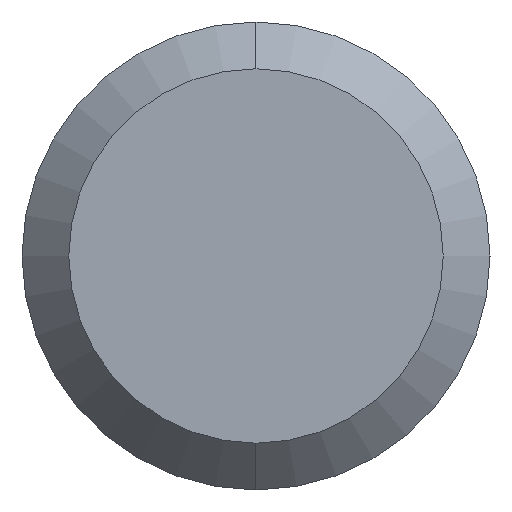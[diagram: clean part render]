
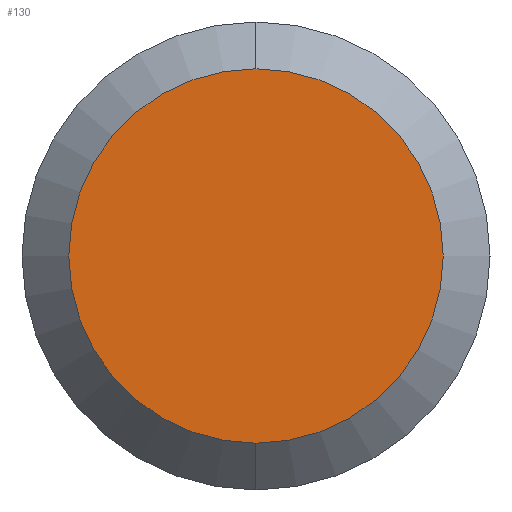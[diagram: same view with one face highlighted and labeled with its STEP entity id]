
A CAD part, left-side view. The second image highlights one B-rep face of the part: STEP entity #130.
In plain terms, the highlighted planar face has unit normal (-1, 0, 0).
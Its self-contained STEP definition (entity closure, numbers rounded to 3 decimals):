
#65 = DIRECTION ( 'NONE',  ( -1., 0., 0. ) ) ;
#68 = EDGE_LOOP ( 'NONE', ( #424, #215 ) ) ;
#70 = CARTESIAN_POINT ( 'NONE',  ( 0., 0., 0. ) ) ;
#90 = FACE_OUTER_BOUND ( 'NONE', #68, .T. ) ;
#107 = DIRECTION ( 'NONE',  ( 0., 0., 1. ) ) ;
#130 = ADVANCED_FACE ( 'NONE', ( #90 ), #255, .F. ) ;
#135 = CARTESIAN_POINT ( 'NONE',  ( 0., 0., 0. ) ) ;
#159 = CARTESIAN_POINT ( 'NONE',  ( 0., 0., -1.6 ) ) ;
#172 = DIRECTION ( 'NONE',  ( 1., 0., 0. ) ) ;
#215 = ORIENTED_EDGE ( 'NONE', *, *, #218, .T. ) ;
#218 = EDGE_CURVE ( 'NONE', #380, #492, #318, .T. ) ;
#222 = AXIS2_PLACEMENT_3D ( 'NONE', #70, #172, #485 ) ;
#255 = PLANE ( 'NONE',  #222 ) ;
#318 = CIRCLE ( 'NONE', #330, 1.6 ) ;
#330 = AXIS2_PLACEMENT_3D ( 'NONE', #337, #65, #107 ) ;
#337 = CARTESIAN_POINT ( 'NONE',  ( 0., 0., 0. ) ) ;
#346 = CARTESIAN_POINT ( 'NONE',  ( 0., 0., 1.6 ) ) ;
#347 = CIRCLE ( 'NONE', #495, 1.6 ) ;
#358 = DIRECTION ( 'NONE',  ( 0., 0., 1. ) ) ;
#380 = VERTEX_POINT ( 'NONE', #346 ) ;
#424 = ORIENTED_EDGE ( 'NONE', *, *, #459, .T. ) ;
#459 = EDGE_CURVE ( 'NONE', #492, #380, #347, .T. ) ;
#474 = DIRECTION ( 'NONE',  ( -1., 0., 0. ) ) ;
#485 = DIRECTION ( 'NONE',  ( 0., 0., -1. ) ) ;
#492 = VERTEX_POINT ( 'NONE', #159 ) ;
#495 = AXIS2_PLACEMENT_3D ( 'NONE', #135, #474, #358 ) ;
